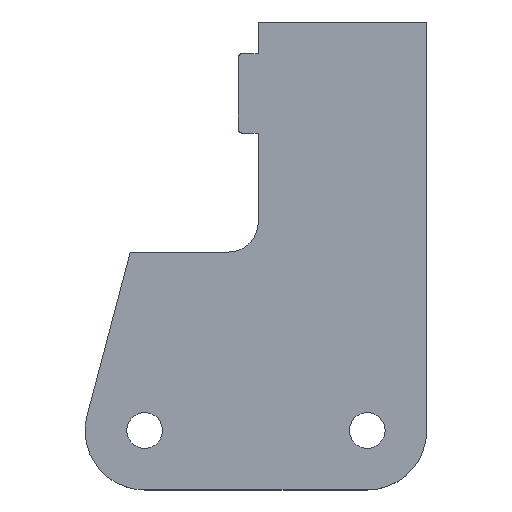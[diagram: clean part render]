
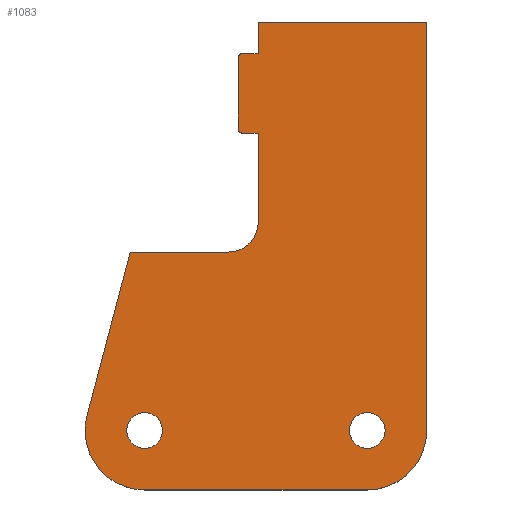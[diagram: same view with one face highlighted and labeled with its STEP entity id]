
A CAD part, top view. The second image highlights one B-rep face of the part: STEP entity #1083.
In plain terms, the highlighted planar face has unit normal (0, 0, 1).
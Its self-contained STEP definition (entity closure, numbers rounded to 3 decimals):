
#512=PLANE('',#1045);
#526=VECTOR('',#849,1.);
#527=VECTOR('',#850,1.);
#528=VECTOR('',#853,1.);
#529=VECTOR('',#856,1.);
#530=VECTOR('',#857,1.);
#531=VECTOR('',#858,1.);
#532=VECTOR('',#859,1.);
#533=VECTOR('',#862,1.);
#534=VECTOR('',#865,1.);
#535=VECTOR('',#866,1.);
#561=LINE('',#951,#526);
#562=LINE('',#953,#527);
#563=LINE('',#957,#528);
#564=LINE('',#961,#529);
#565=LINE('',#963,#530);
#566=LINE('',#965,#531);
#567=LINE('',#967,#532);
#568=LINE('',#971,#533);
#569=LINE('',#975,#534);
#570=LINE('',#976,#535);
#598=ORIENTED_EDGE('',*,*,#740,.T.);
#599=ORIENTED_EDGE('',*,*,#744,.T.);
#600=ORIENTED_EDGE('',*,*,#745,.T.);
#601=ORIENTED_EDGE('',*,*,#746,.F.);
#602=ORIENTED_EDGE('',*,*,#747,.F.);
#603=ORIENTED_EDGE('',*,*,#748,.T.);
#604=ORIENTED_EDGE('',*,*,#749,.F.);
#605=ORIENTED_EDGE('',*,*,#750,.F.);
#606=ORIENTED_EDGE('',*,*,#751,.T.);
#607=ORIENTED_EDGE('',*,*,#752,.T.);
#608=ORIENTED_EDGE('',*,*,#753,.T.);
#609=ORIENTED_EDGE('',*,*,#754,.F.);
#610=ORIENTED_EDGE('',*,*,#755,.F.);
#611=ORIENTED_EDGE('',*,*,#756,.F.);
#612=ORIENTED_EDGE('',*,*,#757,.T.);
#613=ORIENTED_EDGE('',*,*,#758,.F.);
#614=ORIENTED_EDGE('',*,*,#759,.F.);
#692=CIRCLE('',#1043,7.5);
#694=CIRCLE('',#1046,15.);
#695=CIRCLE('',#1047,15.);
#696=CIRCLE('',#1048,1.);
#697=CIRCLE('',#1049,1.);
#698=CIRCLE('',#1050,4.5);
#699=CIRCLE('',#1051,4.5);
#706=VERTEX_POINT('',#941);
#707=VERTEX_POINT('',#942);
#710=VERTEX_POINT('',#950);
#711=VERTEX_POINT('',#952);
#712=VERTEX_POINT('',#954);
#713=VERTEX_POINT('',#956);
#714=VERTEX_POINT('',#958);
#715=VERTEX_POINT('',#960);
#716=VERTEX_POINT('',#962);
#717=VERTEX_POINT('',#964);
#718=VERTEX_POINT('',#966);
#719=VERTEX_POINT('',#968);
#720=VERTEX_POINT('',#970);
#721=VERTEX_POINT('',#972);
#722=VERTEX_POINT('',#974);
#723=VERTEX_POINT('',#977);
#724=VERTEX_POINT('',#979);
#740=EDGE_CURVE('',#706,#707,#692,.T.);
#744=EDGE_CURVE('',#707,#710,#561,.T.);
#745=EDGE_CURVE('',#710,#711,#562,.T.);
#746=EDGE_CURVE('',#712,#711,#694,.T.);
#747=EDGE_CURVE('',#713,#712,#563,.T.);
#748=EDGE_CURVE('',#713,#714,#695,.T.);
#749=EDGE_CURVE('',#715,#714,#564,.T.);
#750=EDGE_CURVE('',#716,#715,#565,.T.);
#751=EDGE_CURVE('',#716,#717,#566,.T.);
#752=EDGE_CURVE('',#717,#718,#567,.T.);
#753=EDGE_CURVE('',#718,#719,#696,.T.);
#754=EDGE_CURVE('',#720,#719,#568,.T.);
#755=EDGE_CURVE('',#721,#720,#697,.T.);
#756=EDGE_CURVE('',#722,#721,#569,.T.);
#757=EDGE_CURVE('',#722,#706,#570,.T.);
#758=EDGE_CURVE('',#723,#723,#698,.T.);
#759=EDGE_CURVE('',#724,#724,#699,.T.);
#790=EDGE_LOOP('',(#598,#599,#600,#601,#602,#603,#604,#605,#606,#607,#608,
#609,#610,#611,#612));
#791=EDGE_LOOP('',(#613));
#792=EDGE_LOOP('',(#614));
#815=FACE_BOUND('',#790,.T.);
#816=FACE_BOUND('',#791,.T.);
#817=FACE_BOUND('',#792,.T.);
#841=DIRECTION('',(0.,0.,-1.));
#842=DIRECTION('',(0.,-7.5,0.));
#847=DIRECTION('',(0.,0.,1.));
#848=DIRECTION('',(0.,-1.,0.));
#849=DIRECTION('',(-24.779,0.,0.));
#850=DIRECTION('',(-10.877,-41.168,0.));
#851=DIRECTION('',(0.,0.,-1.));
#852=DIRECTION('',(0.,-15.,0.));
#853=DIRECTION('',(-56.154,0.,0.));
#854=DIRECTION('',(0.,0.,1.));
#855=DIRECTION('',(0.,15.,0.));
#856=DIRECTION('',(0.,-103.,0.));
#857=DIRECTION('',(42.5,0.,0.));
#858=DIRECTION('',(0.,-8.,0.));
#859=DIRECTION('',(-4.,0.,0.));
#860=DIRECTION('',(0.,0.,1.));
#861=DIRECTION('',(0.,1.,0.));
#862=DIRECTION('',(0.,18.,0.));
#863=DIRECTION('',(0.,0.,-1.));
#864=DIRECTION('',(0.,-1.,0.));
#865=DIRECTION('',(-4.,0.,0.));
#866=DIRECTION('',(0.,-22.5,0.));
#867=DIRECTION('',(0.,0.,1.));
#868=DIRECTION('',(0.,-4.5,0.));
#869=DIRECTION('',(0.,0.,1.));
#870=DIRECTION('',(0.,-4.5,0.));
#941=CARTESIAN_POINT('',(5889.504,13793.86,8.));
#942=CARTESIAN_POINT('',(5882.004,13786.36,8.));
#943=CARTESIAN_POINT('',(5882.004,13793.86,8.));
#949=CARTESIAN_POINT('',(0.,0.,8.));
#950=CARTESIAN_POINT('',(5857.225,13786.36,8.));
#951=CARTESIAN_POINT('',(5882.004,13786.36,8.));
#952=CARTESIAN_POINT('',(5846.347,13745.192,8.));
#953=CARTESIAN_POINT('',(5857.225,13786.36,8.));
#954=CARTESIAN_POINT('',(5860.85,13726.36,8.));
#955=CARTESIAN_POINT('',(5860.85,13741.36,8.));
#956=CARTESIAN_POINT('',(5917.004,13726.36,8.));
#957=CARTESIAN_POINT('',(5917.004,13726.36,8.));
#958=CARTESIAN_POINT('',(5932.004,13741.36,8.));
#959=CARTESIAN_POINT('',(5917.004,13741.36,8.));
#960=CARTESIAN_POINT('',(5932.004,13844.36,8.));
#961=CARTESIAN_POINT('',(5932.004,13844.36,8.));
#962=CARTESIAN_POINT('',(5889.504,13844.36,8.));
#963=CARTESIAN_POINT('',(5889.504,13844.36,8.));
#964=CARTESIAN_POINT('',(5889.504,13836.36,8.));
#965=CARTESIAN_POINT('',(5889.504,13844.36,8.));
#966=CARTESIAN_POINT('',(5885.504,13836.36,8.));
#967=CARTESIAN_POINT('',(5889.504,13836.36,8.));
#968=CARTESIAN_POINT('',(5884.504,13835.36,8.));
#969=CARTESIAN_POINT('',(5885.504,13835.36,8.));
#970=CARTESIAN_POINT('',(5884.504,13817.36,8.));
#971=CARTESIAN_POINT('',(5884.504,13817.36,8.));
#972=CARTESIAN_POINT('',(5885.504,13816.36,8.));
#973=CARTESIAN_POINT('',(5885.504,13817.36,8.));
#974=CARTESIAN_POINT('',(5889.504,13816.36,8.));
#975=CARTESIAN_POINT('',(5889.504,13816.36,8.));
#976=CARTESIAN_POINT('',(5889.504,13816.36,8.));
#977=CARTESIAN_POINT('',(5860.85,13736.86,8.));
#978=CARTESIAN_POINT('',(5860.85,13741.36,8.));
#979=CARTESIAN_POINT('',(5917.004,13736.86,8.));
#980=CARTESIAN_POINT('',(5917.004,13741.36,8.));
#1043=AXIS2_PLACEMENT_3D('',#943,#841,#842);
#1045=AXIS2_PLACEMENT_3D('',#949,#847,#848);
#1046=AXIS2_PLACEMENT_3D('',#955,#851,#852);
#1047=AXIS2_PLACEMENT_3D('',#959,#854,#855);
#1048=AXIS2_PLACEMENT_3D('',#969,#860,#861);
#1049=AXIS2_PLACEMENT_3D('',#973,#863,#864);
#1050=AXIS2_PLACEMENT_3D('',#978,#867,#868);
#1051=AXIS2_PLACEMENT_3D('',#980,#869,#870);
#1083=ADVANCED_FACE('',(#815,#816,#817),#512,.T.);
